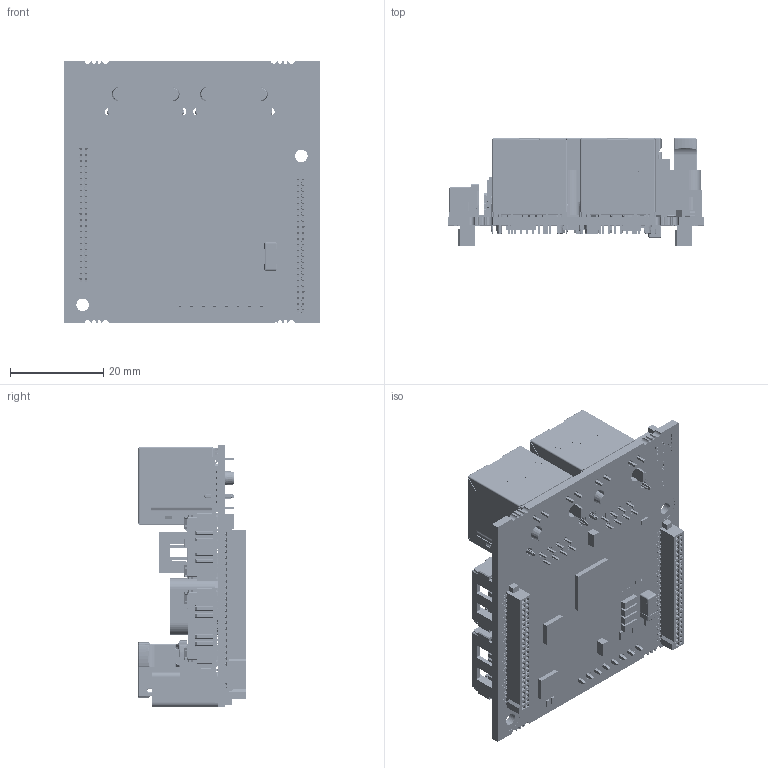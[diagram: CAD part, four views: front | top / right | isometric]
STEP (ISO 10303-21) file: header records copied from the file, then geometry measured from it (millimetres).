
FILE_DESCRIPTION((''),'2;1');
FILE_NAME('EPOS4_CB_ECAT_24_1-5_ASM','2018-11-22T',('MMAGRARI'),(''),'CREO PARAMETRIC BY PTC INC, 2017020','CREO PARAMETRIC BY PTC INC, 2017020','');
FILE_SCHEMA(('CONFIG_CONTROL_DESIGN'));
Products named in the file (83): EPOS4_CB_ECAT_24_1-5_PCB; EPOS4_CB_ECAT_24_1-5_PCB_SITO; EPOS4_CB_ECAT_24_1-5_PCB_SIBO; 5031541090; 5025840770; 52601-X10-8LF; 5025840870; DIP_SWITCH_2P_6; BASE_1_S; SHIELDING_1_S; ASSEM1_S_ASM; 74990101210_SINGLE_ASM; USER_LIBRARY-FUSE_NANO2; HARTING_HAR-FLEXICON_2_54_MSV-3; HARTING_HAR-FLEXICON_2_54_FPV-3; HARTING_HAR-FLEXICON_2_54-3_ASM; CUT-EXTRUDE11_45_; CUT-EXTRUDE11_11_; CUT-EXTRUDE11_46_; CUT-EXTRUDE11_12_; CUT-EXTRUDE11_13_; CUT-EXTRUDE11_3_; CUT-EXTRUDE11_16_; CUT-EXTRUDE11_17_; CUT-EXTRUDE11_24_; CUT-EXTRUDE11_15_; CUT-EXTRUDE11_14_; CUT-EXTRUDE11_25_; COMBINE2; CUT-EXTRUDE11_9_; CUT-EXTRUDE11_23_; CUT-EXTRUDE11_20_; CUT-EXTRUDE11_19_; CUT-EXTRUDE11_26_; CUT-EXTRUDE11_21_; CUT-EXTRUDE11_27_; CUT-EXTRUDE11_22_; CUT-EXTRUDE11_28_; CUT-EXTRUDE11_6_; CUT-EXTRUDE11_29_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
Assembly tree (96 placements, depth 4):
  EPOS4_CB_ECAT_24_1-5_ASM
    EPOS4_CB_ECAT_24_1-5_PCB
    EPOS4_CB_ECAT_24_1-5_PCB_SITO
    EPOS4_CB_ECAT_24_1-5_PCB_SIBO
    5031541090
    5025840770
    52601-X10-8LF
    5025840870  x2
    DIP_SWITCH_2P_6
    74990101210_SINGLE_ASM  x2
      ASSEM1_S_ASM
        BASE_1_S
        SHIELDING_1_S
    USER_LIBRARY-FUSE_NANO2
    HARTING_HAR-FLEXICON_2_54-3_ASM
      HARTING_HAR-FLEXICON_2_54_MSV-3
      HARTING_HAR-FLEXICON_2_54_FPV-3
    SFH31-_____B-D23-SP_ASM  x2
      11165__SFH31-NP_B-D23-SP-____ASM
        CUT-EXTRUDE11_45_
        CUT-EXTRUDE11_11_
        CUT-EXTRUDE11_46_
        CUT-EXTRUDE11_12_
        CUT-EXTRUDE11_13_
        CUT-EXTRUDE11_3_
        CUT-EXTRUDE11_16_
        CUT-EXTRUDE11_17_
        CUT-EXTRUDE11_24_
        CUT-EXTRUDE11_15_
        CUT-EXTRUDE11_14_
        CUT-EXTRUDE11_25_
        COMBINE2
        CUT-EXTRUDE11_9_
        CUT-EXTRUDE11_23_
        CUT-EXTRUDE11_20_
        CUT-EXTRUDE11_19_
        CUT-EXTRUDE11_26_
        CUT-EXTRUDE11_21_
        CUT-EXTRUDE11_27_
        CUT-EXTRUDE11_22_
        CUT-EXTRUDE11_28_
        CUT-EXTRUDE11_6_
        CUT-EXTRUDE11_29_
        CUT-EXTRUDE11_2_
        CUT-EXTRUDE11_30_
        CUT-EXTRUDE11_31_
        CUT-EXTRUDE11_32_
        CUT-EXTRUDE11_1_
        CUT-EXTRUDE11_4_
        CUT-EXTRUDE11_33_
        CUT-EXTRUDE11_8_
        CUT-EXTRUDE11_34_
        CUT-EXTRUDE11_5_
        CUT-EXTRUDE11_35_
        CUT-EXTRUDE11_36_
        CUT-EXTRUDE11_37_
        CUT-EXTRUDE11_18_
        CUT-EXTRUDE11_38_
        CUT-EXTRUDE11_39_
        CUT-EXTRUDE11_7_
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Bounding box: 55 x 23.1 x 56.5 mm (x, y, z)
Volume: 23138.2 mm3; surface area: 47412.9 mm2
Topology: 167 solids, 167 shells, 21951 faces, 61640 edges, 40176 vertices
Faces by surface type: plane 14360, cylinder 5126, extrusion 1540, torus 588, bspline 214, cone 99, sphere 24
Entity records: 634145 total; most frequent: CARTESIAN_POINT 108150, ORIENTED_EDGE 84300, DIRECTION 74308, PRESENTATION_STYLE_ASSIGNMENT 42897, EDGE_CURVE 42150, STYLED_ITEM 41543, CURVE_STYLE 40942, VECTOR 32786
